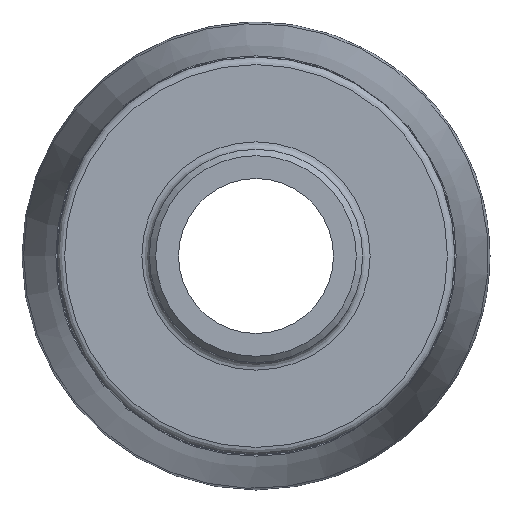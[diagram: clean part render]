
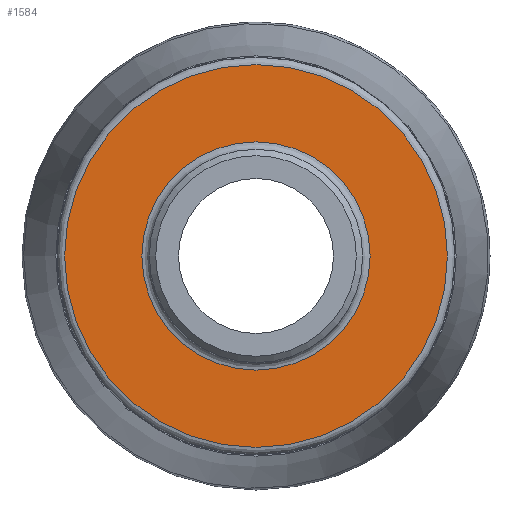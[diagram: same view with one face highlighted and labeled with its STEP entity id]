
A CAD part, left-side view. The second image highlights one B-rep face of the part: STEP entity #1584.
In plain terms, the highlighted planar face has unit normal (-1, 0, 0).
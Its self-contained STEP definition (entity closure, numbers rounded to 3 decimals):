
#262=PLANE('',#1742);
#356=FACE_BOUND('',#504,.T.);
#392=FACE_OUTER_BOUND('',#503,.T.);
#503=EDGE_LOOP('',(#1230));
#504=EDGE_LOOP('',(#1231));
#632=CIRCLE('',#1741,14.146);
#633=CIRCLE('',#1743,23.725);
#742=VERTEX_POINT('',#2817);
#743=VERTEX_POINT('',#2820);
#920=EDGE_CURVE('',#742,#742,#632,.T.);
#921=EDGE_CURVE('',#743,#743,#633,.T.);
#1230=ORIENTED_EDGE('',*,*,#921,.F.);
#1231=ORIENTED_EDGE('',*,*,#920,.F.);
#1584=ADVANCED_FACE('',(#392,#356),#262,.T.);
#1741=AXIS2_PLACEMENT_3D('',#2818,#2035,#2036);
#1742=AXIS2_PLACEMENT_3D('',#2819,#2037,#2038);
#1743=AXIS2_PLACEMENT_3D('',#2821,#2039,#2040);
#2035=DIRECTION('center_axis',(-1.,0.,0.));
#2036=DIRECTION('ref_axis',(0.,-1.,0.));
#2037=DIRECTION('center_axis',(-1.,0.,0.));
#2038=DIRECTION('ref_axis',(0.,0.,1.));
#2039=DIRECTION('center_axis',(1.,0.,0.));
#2040=DIRECTION('ref_axis',(0.,-1.,0.));
#2817=CARTESIAN_POINT('',(17.,14.146,0.));
#2818=CARTESIAN_POINT('Origin',(17.,0.,0.));
#2819=CARTESIAN_POINT('Origin',(17.,24.65,0.));
#2820=CARTESIAN_POINT('',(17.,23.725,0.));
#2821=CARTESIAN_POINT('Origin',(17.,0.,0.));
